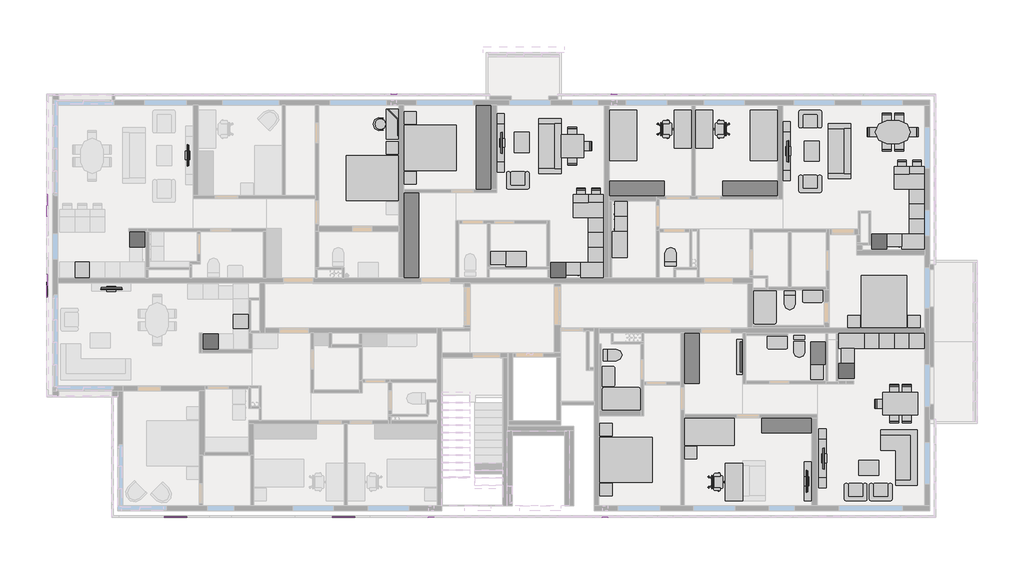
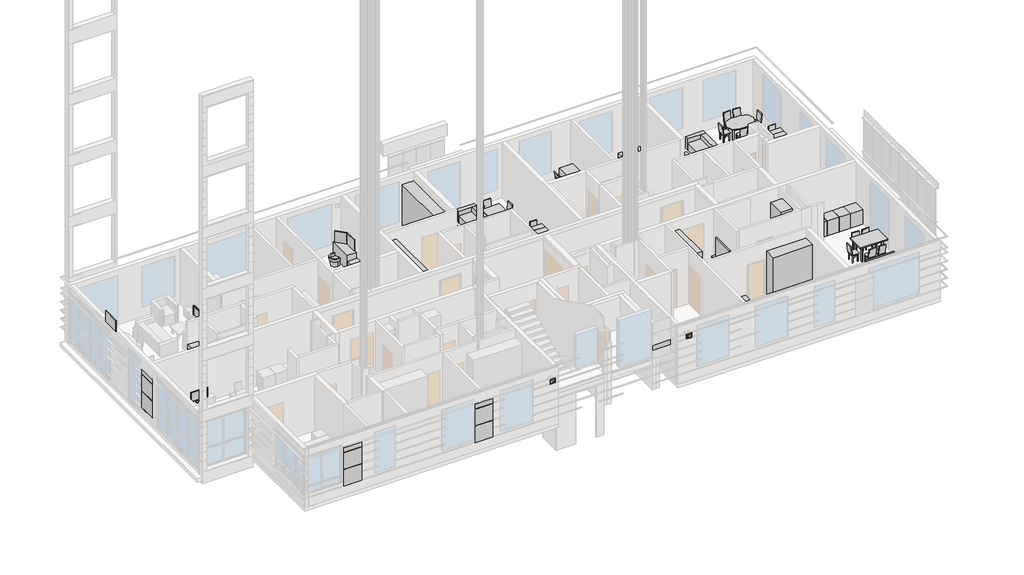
# One storey, part 13 of 14: 80 furniture elements, 31 proxies, 21 flow terminals.
"""IFC4 building model written with IfcOpenShell, lengths in millimetres."""

from ifc_helpers import new_model, si_unit, origin, place, context, project, spatial, transform, mapped, element, save
from components import generic_models_2374763e, generic_models_25d82840, generic_models_359d7c4d, proxy_200x200_7656bd7d, proxy_600x600_81ef8736, proxy_600x600_5c3b2bdc, proxy_600x600_402ae289, diagonal_810_88a9d531, diagonal_810_7ba350c9, flow_terminal_9331744f, flow_terminal_600x500_0679050d, flow_terminal_600x500_bbc3c571, flow_terminal_600x600_aff60e7d, flow_terminal_600x600_852fcc23, flow_terminal_600x600_098c5d3b, flow_terminal_800x500_2e84b328, default_ee5b1c30, default_5434b9c1, default_cdd5ccfe, furniture_04e13bb0, furniture_0a480fd8, furniture_ec166d57, furniture_af5cb44b, furniture_a4c6fd55, furniture_1200x500_daaa9677, furniture_1500x700_7e20c9bf, furniture_1500x700_44764a8b, furniture_2000x900_8549b6ce, furniture_2000x900_58b30379, furniture_2100x1800_e54d67c0, furniture_2100x1800_bd9d3ce1, furniture_2200_2217fce5, furniture_2200_8f109862, furniture_500x2350_ecc61c4f, furniture_500x2350_c66ae9e6, furniture_500x2350_ca4e032f, furniture_700x700_51dbe41f, furniture_900x1400_8099c148, furniture_900x600_407b2405, furniture_900x_6df32213, r225_6250b2e2, chair_43e23103, chair_320c8197, default_8bd5e8aa, default_8e6d88ca, default_1c22f4a7, default_57711184, default_7369cba9, default_9e8bff27, default_f7649dbb, default_14032b75, default_8cef931d, default_b709d490, default_350fb545, default_5d1f57f7, default_d962509c

model = new_model("IFC4")

# Units and contexts
model_context = context("Model", 3, world=origin())
ifc_project = project(units=[si_unit("LENGTHUNIT", "METRE", prefix="MILLI")], contexts=[model_context])

# Site, building, storey
site = spatial("IfcSite", under=ifc_project)
building = spatial("IfcBuilding", under=site)
storey = spatial("IfcBuildingStorey", under=building, Name="03_+7,700_Ж", Elevation=4500.0)

# Proxies
placement = place(None, origin())
generic_models_shape = generic_models_2374763e(model_context)
element("IfcBuildingElementProxy", 1, Name="GM_Панель фасадная : Тип 1", ObjectType="GM_Панель фасадная : Тип 1", at=placement, inside=storey, context=model_context, shape_type="MappedRepresentation", body=[
    mapped(generic_models_shape, transform((137655.0000001, 111274.9999987, 5065.0), x_axis=(-1.0, 0.0, 0.0), y_axis=(0.0, -1.0, 0.0), z_axis=(0.0, 0.0, 1.0))),
])
element("IfcBuildingElementProxy", 2, Name="GM_Панель фасадная : Тип 1", ObjectType="GM_Панель фасадная : Тип 1", at=placement, inside=storey, context=model_context, shape_type="MappedRepresentation", body=[
    mapped(generic_models_shape, transform((137655.0000001, 111274.9999987, 5975.0), x_axis=(-1.0, 0.0, 0.0), y_axis=(0.0, -1.0, 0.0), z_axis=(0.0, 0.0, 1.0))),
])
element("IfcBuildingElementProxy", 3, Name="GM_Панель фасадная : Тип 1", ObjectType="GM_Панель фасадная : Тип 1", at=placement, inside=storey, context=model_context, shape_type="MappedRepresentation", body=[
    mapped(generic_models_shape, transform((130955.0000001, 111274.9999987, 5065.0), x_axis=(-1.0, 0.0, 0.0), y_axis=(0.0, -1.0, 0.0), z_axis=(0.0, 0.0, 1.0))),
])
element("IfcBuildingElementProxy", 4, Name="GM_Панель фасадная : Тип 1", ObjectType="GM_Панель фасадная : Тип 1", at=placement, inside=storey, context=model_context, shape_type="MappedRepresentation", body=[
    mapped(generic_models_shape, transform((130955.0000001, 111274.9999987, 5975.0), x_axis=(-1.0, 0.0, 0.0), y_axis=(0.0, -1.0, 0.0), z_axis=(0.0, 0.0, 1.0))),
])
generic_models_2_shape = generic_models_25d82840(model_context)
element("IfcBuildingElementProxy", 5, Name="GM_Панель фасадная : Тип 1", ObjectType="GM_Панель фасадная : Тип 1", at=placement, inside=storey, context=model_context, shape_type="MappedRepresentation", body=[
    mapped(generic_models_2_shape, transform((137655.0000001, 111274.9999987, 6885.0), x_axis=(-1.0, 0.0, 0.0), y_axis=(0.0, -1.0, 0.0), z_axis=(0.0, 0.0, 1.0))),
])
element("IfcBuildingElementProxy", 6, Name="GM_Панель фасадная : Тип 1", ObjectType="GM_Панель фасадная : Тип 1", at=placement, inside=storey, context=model_context, shape_type="MappedRepresentation", body=[
    mapped(generic_models_2_shape, transform((130955.0000001, 111274.9999987, 6885.0), x_axis=(-1.0, 0.0, 0.0), y_axis=(0.0, -1.0, 0.0), z_axis=(0.0, 0.0, 1.0))),
])
element("IfcBuildingElementProxy", 7, Name="GM_Панель фасадная : Тип 1", ObjectType="GM_Панель фасадная : Тип 1", at=placement, inside=storey, context=model_context, shape_type="MappedRepresentation", body=[
    mapped(generic_models_2_shape, transform((126255.0000001, 120724.9999987, 6885.0), x_axis=(0.0, 1.0, 0.0), y_axis=(-1.0, 0.0, 0.0), z_axis=(0.0, 0.0, 1.0))),
])
element("IfcBuildingElementProxy", 8, Name="GM_Панель фасадная : Тип 1", ObjectType="GM_Панель фасадная : Тип 1", at=placement, inside=storey, context=model_context, shape_type="MappedRepresentation", body=[
    mapped(generic_models_shape, transform((126255.0000001, 120724.9999987, 5065.0), x_axis=(0.0, 1.0, 0.0), y_axis=(-1.0, 0.0, 0.0), z_axis=(0.0, 0.0, 1.0))),
])
element("IfcBuildingElementProxy", 9, Name="GM_Панель фасадная : Тип 1", ObjectType="GM_Панель фасадная : Тип 1", at=placement, inside=storey, context=model_context, shape_type="MappedRepresentation", body=[
    mapped(generic_models_shape, transform((126255.0000001, 120724.9999987, 5975.0), x_axis=(0.0, 1.0, 0.0), y_axis=(-1.0, 0.0, 0.0), z_axis=(0.0, 0.0, 1.0))),
])
generic_models_3_shape = generic_models_359d7c4d(model_context)
element("IfcBuildingElementProxy", 10, Name="GM_Панель фасадная : Тип 1", ObjectType="GM_Панель фасадная : Тип 1", at=placement, inside=storey, context=model_context, shape_type="MappedRepresentation", body=[
    mapped(generic_models_3_shape, transform((126255.0000001, 123924.9999987, 7760.0), x_axis=(0.0, 1.0, 0.0), y_axis=(-1.0, 0.0, 0.0), z_axis=(0.0, 0.0, 1.0))),
])
element("IfcBuildingElementProxy", 11, Name="GM_Панель фасадная : Тип 1", ObjectType="GM_Панель фасадная : Тип 1", at=placement, inside=storey, context=model_context, shape_type="MappedRepresentation", body=[
    mapped(generic_models_2_shape, transform((146705.0000002, 111274.9999987, 6885.0), x_axis=(-1.0, 0.0, 0.0), y_axis=(0.0, -1.0, 0.0), z_axis=(0.0, 0.0, 1.0))),
])
proxy_200x200_shape = proxy_200x200_7656bd7d(model_context)
element("IfcBuildingElementProxy", 12, Name="Eq_Отв- заполнение_решетка П : 200x200", ObjectType="Eq_Отв- заполнение_решетка П : 200x200", at=placement, inside=storey, context=model_context, shape_type="MappedRepresentation", body=[
    mapped(proxy_200x200_shape, transform((139990.0000001, 128049.9999987, 7020.0), x_axis=(-1.0, 0.0, 0.0), y_axis=(0.0, 0.0, 1.0), z_axis=(0.0, 1.0, 0.0))),
])
element("IfcBuildingElementProxy", 13, Name="Eq_Отв- заполнение_решетка П : 200x200", ObjectType="Eq_Отв- заполнение_решетка П : 200x200", at=placement, inside=storey, context=model_context, shape_type="MappedRepresentation", body=[
    mapped(proxy_200x200_shape, transform((148790.0000001, 128049.9999987, 7020.0), x_axis=(-1.0, 0.0, 0.0), y_axis=(0.0, 0.0, 1.0), z_axis=(0.0, 1.0, 0.0))),
])
element("IfcBuildingElementProxy", 14, Name="Eq_Отв- заполнение_решетка П : 200x200", ObjectType="Eq_Отв- заполнение_решетка П : 200x200", at=placement, inside=storey, context=model_context, shape_type="MappedRepresentation", body=[
    mapped(proxy_200x200_shape, transform((148430.0000001, 111149.9999987, 7020.0), x_axis=(1.0, 0.0, 0.0), y_axis=(0.0, 0.0, 1.0), z_axis=(0.0, -1.0, 0.0))),
])
element("IfcBuildingElementProxy", 15, Name="Eq_Отв- заполнение_решетка П : 200x200", ObjectType="Eq_Отв- заполнение_решетка П : 200x200", at=placement, inside=storey, context=model_context, shape_type="MappedRepresentation", body=[
    mapped(proxy_200x200_shape, transform((141480.0000001, 111149.9999987, 7020.0), x_axis=(1.0, 0.0, 0.0), y_axis=(0.0, 0.0, 1.0), z_axis=(0.0, -1.0, 0.0))),
])
proxy_600x600_shape = proxy_600x600_81ef8736(model_context)
element("IfcBuildingElementProxy", 16, Name="Eq_холодильник_LEG : 600x600", ObjectType="Eq_холодильник_LEG : 600x600", at=placement, inside=storey, context=model_context, shape_type="MappedRepresentation", body=[
    mapped(proxy_600x600_shape, transform((130050.0000001, 122529.9999987, 4500.0), x_axis=(0.0, 1.0, 0.0), y_axis=(-1.0, 0.0, 0.0), z_axis=(0.0, 0.0, 1.0))),
])
proxy_600x600_2_shape = proxy_600x600_5c3b2bdc(model_context)
element("IfcBuildingElementProxy", 17, Name="Eq_плита_LEG_v2 : 600x600", ObjectType="Eq_плита_LEG_v2 : 600x600", at=placement, inside=storey, context=model_context, shape_type="MappedRepresentation", body=[
    mapped(proxy_600x600_2_shape, transform((133580.0000001, 119269.9999987, 4500.0), x_axis=(0.0, -1.0, 0.0), y_axis=(1.0, 0.0, 0.0), z_axis=(0.0, 0.0, 1.0))),
])
element("IfcBuildingElementProxy", 18, Name="Eq_плита_LEG_v2 : 600x600", ObjectType="Eq_плита_LEG_v2 : 600x600", at=placement, inside=storey, context=model_context, shape_type="MappedRepresentation", body=[
    mapped(proxy_600x600_2_shape, transform((159962.0000001, 117879.9999987, 4500.0), x_axis=(1.0, 0.0, 0.0), y_axis=(0.0, 1.0, 0.0), z_axis=(0.0, 0.0, 1.0))),
])
element("IfcBuildingElementProxy", 19, Name="Eq_плита_LEG_v2 : 600x600", ObjectType="Eq_плита_LEG_v2 : 600x600", at=placement, inside=storey, context=model_context, shape_type="MappedRepresentation", body=[
    mapped(proxy_600x600_2_shape, transform((160565.0000001, 124254.9999987, 4500.0), x_axis=(0.0, -1.0, 0.0), y_axis=(1.0, 0.0, 0.0), z_axis=(0.0, 0.0, 1.0))),
])
element("IfcBuildingElementProxy", 20, Name="Eq_плита_LEG_v2 : 600x600", ObjectType="Eq_плита_LEG_v2 : 600x600", at=placement, inside=storey, context=model_context, shape_type="MappedRepresentation", body=[
    mapped(proxy_600x600_2_shape, transform((127850.3405906, 121329.9999987, 4500.0), x_axis=(-1.0, 0.0, 0.0), y_axis=(0.0, -1.0, 0.0), z_axis=(0.0, 0.0, 1.0))),
])
element("IfcBuildingElementProxy", 21, Name="Eq_плита_LEG_v2 : 600x600", ObjectType="Eq_плита_LEG_v2 : 600x600", at=placement, inside=storey, context=model_context, shape_type="MappedRepresentation", body=[
    mapped(proxy_600x600_2_shape, transform((147750.0000001, 123124.9999987, 4500.0), x_axis=(0.0, -1.0, 0.0), y_axis=(1.0, 0.0, 0.0), z_axis=(0.0, 0.0, 1.0))),
])
proxy_600x600_3_shape = proxy_600x600_402ae289(model_context)
element("IfcBuildingElementProxy", 22, Name="Eq_холодильник_LEG : 600x600", ObjectType="Eq_холодильник_LEG : 600x600", at=placement, inside=storey, context=model_context, shape_type="MappedRepresentation", body=[
    mapped(proxy_600x600_3_shape, transform((132380.0000001, 117869.9999987, 4500.0), x_axis=(-1.0, 0.0, 0.0), y_axis=(0.0, -1.0, 0.0), z_axis=(0.0, 0.0, 1.0))),
])
element("IfcBuildingElementProxy", 23, Name="Eq_холодильник_LEG : 600x600", ObjectType="Eq_холодильник_LEG : 600x600", at=placement, inside=storey, context=model_context, shape_type="MappedRepresentation", body=[
    mapped(proxy_600x600_3_shape, transform((157762.0000001, 117279.9999987, 4500.0), x_axis=(0.0, 1.0, 0.0), y_axis=(-1.0, 0.0, 0.0), z_axis=(0.0, 0.0, 1.0))),
])
element("IfcBuildingElementProxy", 24, Name="Eq_холодильник_LEG : 600x600", ObjectType="Eq_холодильник_LEG : 600x600", at=placement, inside=storey, context=model_context, shape_type="MappedRepresentation", body=[
    mapped(proxy_600x600_3_shape, transform((159065.0000001, 121854.9999987, 4500.0), x_axis=(-1.0, 0.0, 0.0), y_axis=(0.0, -1.0, 0.0), z_axis=(0.0, 0.0, 1.0))),
])
element("IfcBuildingElementProxy", 25, Name="Eq_холодильник_LEG : 600x600", ObjectType="Eq_холодильник_LEG : 600x600", at=placement, inside=storey, context=model_context, shape_type="MappedRepresentation", body=[
    mapped(proxy_600x600_3_shape, transform((146250.0000001, 120724.9999987, 4500.0), x_axis=(-1.0, 0.0, 0.0), y_axis=(0.0, -1.0, 0.0), z_axis=(0.0, 0.0, 1.0))),
])
diagonal_810_shape = diagonal_810_88a9d531(model_context)
element("IfcBuildingElementProxy", 26, Name="Eq_TV : diagonal_810", ObjectType="Eq_TV : diagonal_810", at=placement, inside=storey, context=model_context, shape_type="MappedRepresentation", body=[
    mapped(diagonal_810_shape, transform((157117.5755232, 113486.0554846, 4900.0), x_axis=(0.0, -1.0, 0.0), y_axis=(1.0, 0.0, 0.0), z_axis=(0.0, 0.0, 1.0))),
])
diagonal_810_2_shape = diagonal_810_7ba350c9(model_context)
element("IfcBuildingElementProxy", 27, Name="Eq_TV : diagonal_810", ObjectType="Eq_TV : diagonal_810", at=placement, inside=storey, context=model_context, shape_type="MappedRepresentation", body=[
    mapped(diagonal_810_2_shape, transform((128721.4445143, 120317.4244756, 4900.0), x_axis=(1.0, 0.0, 0.0), y_axis=(0.0, 1.0, 0.0), z_axis=(0.0, 0.0, 1.0))),
])
element("IfcBuildingElementProxy", 28, Name="Eq_TV : diagonal_810", ObjectType="Eq_TV : diagonal_810", at=placement, inside=storey, context=model_context, shape_type="MappedRepresentation", body=[
    mapped(diagonal_810_2_shape, transform((156519.4244771, 112571.0554846, 4900.0), x_axis=(0.0, -1.0, 0.0), y_axis=(1.0, 0.0, 0.0), z_axis=(0.0, 0.0, 1.0))),
])
element("IfcBuildingElementProxy", 29, Name="Eq_TV : diagonal_810", ObjectType="Eq_TV : diagonal_810", at=placement, inside=storey, context=model_context, shape_type="MappedRepresentation", body=[
    mapped(diagonal_810_2_shape, transform((155685.6400195, 125768.9445128, 4900.0), x_axis=(0.0, 1.0, 0.0), y_axis=(-1.0, 0.0, 0.0), z_axis=(0.0, 0.0, 1.0))),
])
element("IfcBuildingElementProxy", 30, Name="Eq_TV : diagonal_810", ObjectType="Eq_TV : diagonal_810", at=placement, inside=storey, context=model_context, shape_type="MappedRepresentation", body=[
    mapped(diagonal_810_2_shape, transform((131817.4244771, 125596.0554846, 4900.0), x_axis=(0.0, -1.0, 0.0), y_axis=(1.0, 0.0, 0.0), z_axis=(0.0, 0.0, 1.0))),
])
element("IfcBuildingElementProxy", 31, Name="Eq_TV : diagonal_810", ObjectType="Eq_TV : diagonal_810", at=placement, inside=storey, context=model_context, shape_type="MappedRepresentation", body=[
    mapped(diagonal_810_2_shape, transform((144262.5755232, 126103.9445128, 4900.0), x_axis=(0.0, 1.0, 0.0), y_axis=(-1.0, 0.0, 0.0), z_axis=(0.0, 0.0, 1.0))),
])

# Flow terminals
flow_terminal_shape = flow_terminal_9331744f(model_context)
element("IfcFlowTerminal", 32, ObjectType="SP_унитаз подвесной : SP_унитаз подвесной", at=placement, inside=storey, context=model_context, shape_type="MappedRepresentation", body=[
    mapped(flow_terminal_shape, transform((156177.0000001, 118169.9999987, 4500.0), x_axis=(-1.0, 0.0, 0.0), y_axis=(0.0, -1.0, 0.0), z_axis=(0.0, 0.0, 1.0))),
])
flow_terminal_600x500_shape = flow_terminal_600x500_0679050d(model_context)
element("IfcFlowTerminal", 33, ObjectType="SP_раковина_LEG_настраиваемая : 600x500", at=placement, inside=storey, context=model_context, shape_type="MappedRepresentation", body=[
    mapped(flow_terminal_600x500_shape, transform((144870.0000001, 121149.9999987, 4500.0), x_axis=(-1.0, 0.0, 0.0), y_axis=(0.0, -1.0, 0.0), z_axis=(0.0, 0.0, 1.0))),
])
flow_terminal_600x500_2_shape = flow_terminal_600x500_bbc3c571(model_context)
element("IfcFlowTerminal", 34, ObjectType="SP_раковина_LEG_настраиваемая : 600x500", at=placement, inside=storey, context=model_context, shape_type="MappedRepresentation", body=[
    mapped(flow_terminal_600x500_2_shape, transform((148715.0000001, 122037.4999987, 4588.0), x_axis=(0.0, 1.0, 0.0), y_axis=(-1.0, 0.0, 0.0), z_axis=(0.0, 0.0, 1.0))),
])
flow_terminal_600x600_shape = flow_terminal_600x600_aff60e7d(model_context)
element("IfcFlowTerminal", 35, ObjectType="SP_раковина кухонная_LEG : 600x600", at=placement, inside=storey, context=model_context, shape_type="MappedRepresentation", body=[
    mapped(flow_terminal_600x600_shape, transform((159362.0000001, 118479.9999987, 4500.0), x_axis=(1.0, 0.0, 0.0), y_axis=(0.0, 1.0, 0.0), z_axis=(0.0, 0.0, 1.0))),
])
element("IfcFlowTerminal", 36, ObjectType="SP_раковина кухонная_LEG : 600x600", at=placement, inside=storey, context=model_context, shape_type="MappedRepresentation", body=[
    mapped(flow_terminal_600x600_shape, transform((148350.0000001, 121324.9999987, 4500.0), x_axis=(0.0, -1.0, 0.0), y_axis=(1.0, 0.0, 0.0), z_axis=(0.0, 0.0, 1.0))),
])
element("IfcFlowTerminal", 37, ObjectType="SP_раковина кухонная_LEG : 600x600", at=placement, inside=storey, context=model_context, shape_type="MappedRepresentation", body=[
    mapped(flow_terminal_600x600_shape, transform((161165.0000001, 122454.9999987, 4500.0), x_axis=(0.0, -1.0, 0.0), y_axis=(1.0, 0.0, 0.0), z_axis=(0.0, 0.0, 1.0))),
])
flow_terminal_600x600_2_shape = flow_terminal_600x600_852fcc23(model_context)
element("IfcFlowTerminal", 38, ObjectType="SP_стиральная машина_LEG : 600x600", at=placement, inside=storey, context=model_context, shape_type="MappedRepresentation", body=[
    mapped(flow_terminal_600x600_2_shape, transform((157227.0000001, 116949.9999987, 4500.0), x_axis=(0.0, 1.0, 0.0), y_axis=(-1.0, 0.0, 0.0), z_axis=(0.0, 0.0, 1.0))),
])
element("IfcFlowTerminal", 39, ObjectType="SP_стиральная машина_LEG : 600x600", at=placement, inside=storey, context=model_context, shape_type="MappedRepresentation", body=[
    mapped(flow_terminal_600x600_2_shape, transform((148715.0000001, 123449.9999987, 4500.0), x_axis=(0.0, -1.0, 0.0), y_axis=(1.0, 0.0, 0.0), z_axis=(0.0, 0.0, 1.0))),
])
element("IfcFlowTerminal", 40, ObjectType="SP_стиральная машина_LEG : 600x600", at=placement, inside=storey, context=model_context, shape_type="MappedRepresentation", body=[
    mapped(flow_terminal_600x600_2_shape, transform((144170.0000001, 121149.9999987, 4500.0), x_axis=(1.0, 0.0, 0.0), y_axis=(0.0, 1.0, 0.0), z_axis=(0.0, 0.0, 1.0))),
])
element("IfcFlowTerminal", 41, ObjectType="SP_стиральная машина_LEG : 600x600", at=placement, inside=storey, context=model_context, shape_type="MappedRepresentation", body=[
    mapped(flow_terminal_600x600_2_shape, transform((148715.0000001, 122849.9999987, 4500.0), x_axis=(0.0, -1.0, 0.0), y_axis=(1.0, 0.0, 0.0), z_axis=(0.0, 0.0, 1.0))),
])
flow_terminal_600x600_3_shape = flow_terminal_600x600_098c5d3b(model_context)
element("IfcFlowTerminal", 42, ObjectType="SP_посудомоечная машина_LEG : 600x600", at=placement, inside=storey, context=model_context, shape_type="MappedRepresentation", body=[
    mapped(flow_terminal_600x600_3_shape, transform((157762.0000001, 117579.9999987, 4500.0), x_axis=(0.0, -1.0, 0.0), y_axis=(1.0, 0.0, 0.0), z_axis=(0.0, 0.0, 1.0))),
])
element("IfcFlowTerminal", 43, ObjectType="SP_посудомоечная машина_LEG : 600x600", at=placement, inside=storey, context=model_context, shape_type="MappedRepresentation", body=[
    mapped(flow_terminal_600x600_3_shape, transform((159965.0000001, 121854.9999987, 4500.0), x_axis=(1.0, 0.0, 0.0), y_axis=(0.0, 1.0, 0.0), z_axis=(0.0, 0.0, 1.0))),
])
element("IfcFlowTerminal", 44, ObjectType="SP_посудомоечная машина_LEG : 600x600", at=placement, inside=storey, context=model_context, shape_type="MappedRepresentation", body=[
    mapped(flow_terminal_600x600_3_shape, transform((147150.0000001, 120724.9999987, 4500.0), x_axis=(1.0, 0.0, 0.0), y_axis=(0.0, 1.0, 0.0), z_axis=(0.0, 0.0, 1.0))),
])
flow_terminal_800x500_shape = flow_terminal_800x500_2e84b328(model_context)
element("IfcFlowTerminal", 45, ObjectType="SP_раковина_LEG : 800x500", at=placement, inside=storey, context=model_context, shape_type="MappedRepresentation", body=[
    mapped(flow_terminal_800x500_shape, transform((148305.0000001, 116769.9999987, 4500.0), x_axis=(0.0, 1.0, 0.0), y_axis=(-1.0, 0.0, 0.0), z_axis=(0.0, 0.0, 1.0))),
])
element("IfcFlowTerminal", 46, ObjectType="SP_раковина_LEG : 800x500", at=placement, inside=storey, context=model_context, shape_type="MappedRepresentation", body=[
    mapped(flow_terminal_800x500_shape, transform((155302.0000001, 118374.9999987, 4500.0), x_axis=(1.0, 0.0, 0.0), y_axis=(0.0, 1.0, 0.0), z_axis=(0.0, 0.0, 1.0))),
])
element("IfcFlowTerminal", 47, ObjectType="SP_раковина_LEG : 800x500", at=placement, inside=storey, context=model_context, shape_type="MappedRepresentation", body=[
    mapped(flow_terminal_800x500_shape, transform((156707.4250255, 120224.9999987, 4500.0), x_axis=(1.0, 0.0, 0.0), y_axis=(0.0, 1.0, 0.0), z_axis=(0.0, 0.0, 1.0))),
])
default_shape = default_ee5b1c30(model_context)
element("IfcFlowTerminal", 48, ObjectType="SP_душевой поддон_LEG : default", at=placement, inside=storey, context=model_context, shape_type="MappedRepresentation", body=[
    mapped(default_shape, transform((154355.0000001, 120174.9999987, 4500.0), x_axis=(0.0, -1.0, 0.0), y_axis=(1.0, 0.0, 0.0), z_axis=(0.0, 0.0, 1.0))),
])
default_2_shape = default_5434b9c1(model_context)
element("IfcFlowTerminal", 49, ObjectType="SP_душевой поддон_LEG : default", at=placement, inside=storey, context=model_context, shape_type="MappedRepresentation", body=[
    mapped(default_2_shape, transform((149820.0000001, 115429.9999987, 4500.0), x_axis=(0.0, 1.0, 0.0), y_axis=(-1.0, 0.0, 0.0), z_axis=(0.0, 0.0, 1.0))),
])
default_3_shape = default_cdd5ccfe(model_context)
element("IfcFlowTerminal", 50, ObjectType="SP_унитаз : default", at=placement, inside=storey, context=model_context, shape_type="MappedRepresentation", body=[
    mapped(default_3_shape, transform((148355.0000001, 117619.9999987, 4500.0), x_axis=(1.0, 0.0, 0.0), y_axis=(0.0, 1.0, 0.0), z_axis=(0.0, 0.0, 1.0))),
])
element("IfcFlowTerminal", 51, ObjectType="SP_унитаз : default", at=placement, inside=storey, context=model_context, shape_type="MappedRepresentation", body=[
    mapped(default_3_shape, transform((151040.0000001, 121179.9999987, 4500.0), x_axis=(0.0, 1.0, 0.0), y_axis=(-1.0, 0.0, 0.0), z_axis=(0.0, 0.0, 1.0))),
])
element("IfcFlowTerminal", 52, ObjectType="SP_унитаз : default", at=placement, inside=storey, context=model_context, shape_type="MappedRepresentation", body=[
    mapped(default_3_shape, transform((155797.4250255, 120174.9999987, 4500.0), x_axis=(0.0, -1.0, 0.0), y_axis=(1.0, 0.0, 0.0), z_axis=(0.0, 0.0, 1.0))),
])

# Furniture
furniture_shape = furniture_04e13bb0(model_context)
element("IfcFurniture", 53, ObjectType="Fu_журнальный_столик_прямоугольный_LEG : 600Х800", at=placement, inside=storey, context=model_context, shape_type="MappedRepresentation", body=[
    mapped(furniture_shape, transform((145645.0000001, 126119.9999987, 4500.0), x_axis=(1.0, 0.0, 0.0), y_axis=(0.0, 1.0, 0.0), z_axis=(0.0, 0.0, 1.0))),
])
element("IfcFurniture", 54, ObjectType="Fu_журнальный_столик_прямоугольный_LEG : 600Х800", at=placement, inside=storey, context=model_context, shape_type="MappedRepresentation", body=[
    mapped(furniture_shape, transform((158955.0000001, 113659.9999987, 4500.0), x_axis=(0.0, 1.0, 0.0), y_axis=(-1.0, 0.0, 0.0), z_axis=(0.0, 0.0, 1.0))),
])
element("IfcFurniture", 55, ObjectType="Fu_журнальный_столик_прямоугольный_LEG : 600Х800", at=placement, inside=storey, context=model_context, shape_type="MappedRepresentation", body=[
    mapped(furniture_shape, transform((157232.0000001, 125764.9999987, 4500.0), x_axis=(1.0, 0.0, 0.0), y_axis=(0.0, 1.0, 0.0), z_axis=(0.0, 0.0, 1.0))),
])
furniture_2_shape = furniture_0a480fd8(model_context)
element("IfcFurniture", 56, ObjectType="Fu_трюмо_LEG : 1400Х250", at=placement, inside=storey, context=model_context, shape_type="MappedRepresentation", body=[
    mapped(furniture_2_shape, transform((153927.0000001, 116839.9999987, 4500.0), x_axis=(0.0, 1.0, 0.0), y_axis=(-1.0, 0.0, 0.0), z_axis=(0.0, 0.0, 1.0))),
])
furniture_3_shape = furniture_ec166d57(model_context)
element("IfcFurniture", 57, ObjectType="Fu_шкаф 1-с : Шкаф 1-створчатый", at=placement, inside=storey, context=model_context, shape_type="MappedRepresentation", body=[
    mapped(furniture_3_shape, transform((156627.0000001, 117249.9999987, 4500.0), x_axis=(1.0, 0.0, 0.0), y_axis=(0.0, 1.0, 0.0), z_axis=(0.0, 0.0, 1.0))),
])
furniture_4_shape = furniture_af5cb44b(model_context)
element("IfcFurniture", 58, ObjectType="Fu_тумба прикроватная_LEG : 500х500", at=placement, inside=storey, context=model_context, shape_type="MappedRepresentation", body=[
    mapped(furniture_4_shape, transform((148460.0000001, 114639.9999987, 4500.0), x_axis=(0.0, 1.0, 0.0), y_axis=(-1.0, 0.0, 0.0), z_axis=(0.0, 0.0, 1.0))),
])
element("IfcFurniture", 59, ObjectType="Fu_тумба прикроватная_LEG : 500х500", at=placement, inside=storey, context=model_context, shape_type="MappedRepresentation", body=[
    mapped(furniture_4_shape, transform((158360.0000001, 118949.9999987, 4500.0), x_axis=(-1.0, 0.0, 0.0), y_axis=(0.0, -1.0, 0.0), z_axis=(0.0, 0.0, 1.0))),
])
element("IfcFurniture", 60, ObjectType="Fu_тумба прикроватная_LEG : 500х500", at=placement, inside=storey, context=model_context, shape_type="MappedRepresentation", body=[
    mapped(furniture_4_shape, transform((140640.0000001, 127099.9999987, 4500.0), x_axis=(0.0, 1.0, 0.0), y_axis=(-1.0, 0.0, 0.0), z_axis=(0.0, 0.0, 1.0))),
])
furniture_5_shape = furniture_a4c6fd55(model_context)
element("IfcFurniture", 61, ObjectType="Fu_тумба прикроватная_LEG : 500х500", at=placement, inside=storey, context=model_context, shape_type="MappedRepresentation", body=[
    mapped(furniture_5_shape, transform((148460.0000001, 112239.9999987, 4500.0), x_axis=(0.0, -1.0, 0.0), y_axis=(1.0, 0.0, 0.0), z_axis=(0.0, 0.0, 1.0))),
])
element("IfcFurniture", 62, ObjectType="Fu_тумба прикроватная_LEG : 500х500", at=placement, inside=storey, context=model_context, shape_type="MappedRepresentation", body=[
    mapped(furniture_5_shape, transform((151832.0000001, 113719.9999987, 4500.0), x_axis=(0.0, -1.0, 0.0), y_axis=(1.0, 0.0, 0.0), z_axis=(0.0, 0.0, 1.0))),
])
element("IfcFurniture", 63, ObjectType="Fu_тумба прикроватная_LEG : 500х500", at=placement, inside=storey, context=model_context, shape_type="MappedRepresentation", body=[
    mapped(furniture_5_shape, transform((160760.0000001, 118949.9999987, 4500.0), x_axis=(1.0, 0.0, 0.0), y_axis=(0.0, 1.0, 0.0), z_axis=(0.0, 0.0, 1.0))),
])
element("IfcFurniture", 64, ObjectType="Fu_тумба прикроватная_LEG : 500х500", at=placement, inside=storey, context=model_context, shape_type="MappedRepresentation", body=[
    mapped(furniture_5_shape, transform((139940.0000001, 125894.9999987, 4500.0), x_axis=(0.0, 1.0, 0.0), y_axis=(-1.0, 0.0, 0.0), z_axis=(0.0, 0.0, 1.0))),
])
element("IfcFurniture", 65, ObjectType="Fu_тумба прикроватная_LEG : 500х500", at=placement, inside=storey, context=model_context, shape_type="MappedRepresentation", body=[
    mapped(furniture_5_shape, transform((140640.0000001, 124699.9999987, 4500.0), x_axis=(0.0, -1.0, 0.0), y_axis=(1.0, 0.0, 0.0), z_axis=(0.0, 0.0, 1.0))),
])
furniture_1200x500_shape = furniture_1200x500_daaa9677(model_context)
element("IfcFurniture", 66, ObjectType="Fu_будуар : 1200x500", at=placement, inside=storey, context=model_context, shape_type="MappedRepresentation", body=[
    mapped(furniture_1200x500_shape, transform((138573.2060378, 126623.4018907, 4500.0), x_axis=(0.0, -1.0, 0.0), y_axis=(1.0, 0.0, 0.0), z_axis=(0.0, 0.0, 1.0))),
])
furniture_1500x700_shape = furniture_1500x700_7e20c9bf(model_context)
element("IfcFurniture", 67, ObjectType="Fu_стол рабочий : 1500x700", at=placement, inside=storey, context=model_context, shape_type="MappedRepresentation", body=[
    mapped(furniture_1500x700_shape, transform((153631.7939625, 126423.4018907, 4500.0), x_axis=(0.0, -1.0, 0.0), y_axis=(1.0, 0.0, 0.0), z_axis=(0.0, 0.0, 1.0))),
])
furniture_1500x700_2_shape = furniture_1500x700_44764a8b(model_context)
element("IfcFurniture", 68, ObjectType="Fu_стол рабочий : 1500x700", at=placement, inside=storey, context=model_context, shape_type="MappedRepresentation", body=[
    mapped(furniture_1500x700_2_shape, transform((152310.2060378, 112323.4018907, 4500.0), x_axis=(0.0, -1.0, 0.0), y_axis=(1.0, 0.0, 0.0), z_axis=(0.0, 0.0, 1.0))),
])
element("IfcFurniture", 69, ObjectType="Fu_стол рабочий : 1500x700", at=placement, inside=storey, context=model_context, shape_type="MappedRepresentation", body=[
    mapped(furniture_1500x700_2_shape, transform((150273.2060378, 126423.4018907, 4500.0), x_axis=(0.0, -1.0, 0.0), y_axis=(1.0, 0.0, 0.0), z_axis=(0.0, 0.0, 1.0))),
])
furniture_2000x900_shape = furniture_2000x900_8549b6ce(model_context)
element("IfcFurniture", 70, ObjectType="Fu_кровать x1_LEG : 2000x900", at=placement, inside=storey, context=model_context, shape_type="MappedRepresentation", body=[
    mapped(furniture_2000x900_shape, transform((148691.9355038, 126634.4295069, 4500.0), x_axis=(-1.0, 0.0, 0.0), y_axis=(0.0, -1.0, 0.0), z_axis=(0.0, 0.0, 1.0))),
])
furniture_2000x900_2_shape = furniture_2000x900_58b30379(model_context)
element("IfcFurniture", 71, ObjectType="Fu_кровать x1_LEG : 2000x900", at=placement, inside=storey, context=model_context, shape_type="MappedRepresentation", body=[
    mapped(furniture_2000x900_2_shape, transform((152347.570492, 115019.9999987, 4500.0), x_axis=(0.0, 1.0, 0.0), y_axis=(-1.0, 0.0, 0.0), z_axis=(0.0, 0.0, 1.0))),
])
element("IfcFurniture", 72, ObjectType="Fu_кровать x1_LEG : 2000x900", at=placement, inside=storey, context=model_context, shape_type="MappedRepresentation", body=[
    mapped(furniture_2000x900_2_shape, transform((155213.0644964, 126634.4295069, 4500.0), x_axis=(1.0, 0.0, 0.0), y_axis=(0.0, 1.0, 0.0), z_axis=(0.0, 0.0, 1.0))),
])
furniture_2100x1800_shape = furniture_2100x1800_e54d67c0(model_context)
element("IfcFurniture", 73, ObjectType="Fu_кровать x2_LEG : 2100x1800", at=placement, inside=storey, context=model_context, shape_type="MappedRepresentation", body=[
    mapped(furniture_2100x1800_shape, transform((149025.570492, 113439.9999987, 4500.0), x_axis=(0.0, 1.0, 0.0), y_axis=(-1.0, 0.0, 0.0), z_axis=(0.0, 0.0, 1.0))),
])
element("IfcFurniture", 74, ObjectType="Fu_кровать x2_LEG : 2100x1800", at=placement, inside=storey, context=model_context, shape_type="MappedRepresentation", body=[
    mapped(furniture_2100x1800_shape, transform((141205.5704919, 125899.9999987, 4500.0), x_axis=(0.0, 1.0, 0.0), y_axis=(-1.0, 0.0, 0.0), z_axis=(0.0, 0.0, 1.0))),
])
furniture_2100x1800_2_shape = furniture_2100x1800_bd9d3ce1(model_context)
element("IfcFurniture", 75, ObjectType="Fu_кровать x2_LEG : 2100x1800", at=placement, inside=storey, context=model_context, shape_type="MappedRepresentation", body=[
    mapped(furniture_2100x1800_2_shape, transform((159560.0000001, 119515.5704905, 4500.0), x_axis=(1.0, 0.0, 0.0), y_axis=(0.0, 1.0, 0.0), z_axis=(0.0, 0.0, 1.0))),
])
element("IfcFurniture", 76, ObjectType="Fu_кровать x2_LEG : 2100x1800", at=placement, inside=storey, context=model_context, shape_type="MappedRepresentation", body=[
    mapped(furniture_2100x1800_2_shape, transform((139374.4295083, 124694.9999987, 4500.0), x_axis=(0.0, 1.0, 0.0), y_axis=(-1.0, 0.0, 0.0), z_axis=(0.0, 0.0, 1.0))),
])
furniture_2200_shape = furniture_2200_2217fce5(model_context)
element("IfcFurniture", 77, ObjectType="Fu_диван_LEG : 2200", at=placement, inside=storey, context=model_context, shape_type="MappedRepresentation", body=[
    mapped(furniture_2200_shape, transform((157313.222951, 126638.3737692, 4500.0), x_axis=(0.0, -1.0, 0.0), y_axis=(1.0, 0.0, 0.0), z_axis=(0.0, 0.0, 1.0))),
])
element("IfcFurniture", 78, ObjectType="Fu_диван_LEG : 2200", at=placement, inside=storey, context=model_context, shape_type="MappedRepresentation", body=[
    mapped(furniture_2200_shape, transform((145753.222951, 126843.3737692, 4500.0), x_axis=(0.0, -1.0, 0.0), y_axis=(1.0, 0.0, 0.0), z_axis=(0.0, 0.0, 1.0))),
])
furniture_2200_2_shape = furniture_2200_8f109862(model_context)
element("IfcFurniture", 79, ObjectType="Fu_диван угловой_LEG : 2200", at=placement, inside=storey, context=model_context, shape_type="MappedRepresentation", body=[
    mapped(furniture_2200_2_shape, transform((159988.222951, 114698.3737692, 4500.0), x_axis=(0.0, -1.0, 0.0), y_axis=(1.0, 0.0, 0.0), z_axis=(0.0, 0.0, 1.0))),
])
furniture_500x2350_shape = furniture_500x2350_ecc61c4f(model_context)
element("IfcFurniture", 80, ObjectType="Fu_TV+тумба_LEG : 500x2350", at=placement, inside=storey, context=model_context, shape_type="MappedRepresentation", body=[
    mapped(furniture_500x2350_shape, transform((157871.7770493, 113263.4018907, 4500.0), x_axis=(0.0, -1.0, 0.0), y_axis=(1.0, 0.0, 0.0), z_axis=(0.0, 0.0, 1.0))),
])
furniture_500x2350_2_shape = furniture_500x2350_c66ae9e6(model_context)
element("IfcFurniture", 81, ObjectType="Fu_TV+тумба_LEG : 500x2350", at=placement, inside=storey, context=model_context, shape_type="MappedRepresentation", body=[
    mapped(furniture_500x2350_2_shape, transform((155765.222951, 112348.4018907, 4500.0), x_axis=(0.0, -1.0, 0.0), y_axis=(1.0, 0.0, 0.0), z_axis=(0.0, 0.0, 1.0))),
])
furniture_500x2350_3_shape = furniture_500x2350_ca4e032f(model_context)
element("IfcFurniture", 82, ObjectType="Fu_TV+тумба_LEG : 500x2350", at=placement, inside=storey, context=model_context, shape_type="MappedRepresentation", body=[
    mapped(furniture_500x2350_3_shape, transform((145016.7770493, 126326.5981067, 4500.0), x_axis=(0.0, 1.0, 0.0), y_axis=(-1.0, 0.0, 0.0), z_axis=(0.0, 0.0, 1.0))),
])
element("IfcFurniture", 83, ObjectType="Fu_TV+тумба_LEG : 500x2350", at=placement, inside=storey, context=model_context, shape_type="MappedRepresentation", body=[
    mapped(furniture_500x2350_3_shape, transform((156439.8415456, 125991.5981067, 4500.0), x_axis=(0.0, 1.0, 0.0), y_axis=(-1.0, 0.0, 0.0), z_axis=(0.0, 0.0, 1.0))),
])
furniture_700x700_shape = furniture_700x700_51dbe41f(model_context)
element("IfcFurniture", 84, ObjectType="Fu_кухонный стол_LEG : 700x700", at=placement, inside=storey, context=model_context, shape_type="MappedRepresentation", body=[
    mapped(furniture_700x700_shape, transform((146570.0000001, 125969.9999987, 4500.0), x_axis=(-1.0, 0.0, 0.0), y_axis=(0.0, -1.0, 0.0), z_axis=(0.0, 0.0, 1.0))),
])
furniture_900x1400_shape = furniture_900x1400_8099c148(model_context)
element("IfcFurniture", 85, ObjectType="Fu_кухонный стол_LEG : 900x1400", at=placement, inside=storey, context=model_context, shape_type="MappedRepresentation", body=[
    mapped(furniture_900x1400_shape, transform((160513.5750403, 115674.9999987, 4500.0), x_axis=(1.0, 0.0, 0.0), y_axis=(0.0, 1.0, 0.0), z_axis=(0.0, 0.0, 1.0))),
])
furniture_900x600_shape = furniture_900x600_407b2405(model_context)
element("IfcFurniture", 86, ObjectType="Fu_кресло_большое_LEG : 900x600", at=placement, inside=storey, context=model_context, shape_type="MappedRepresentation", body=[
    mapped(furniture_900x600_shape, transform((159544.3000001, 112349.92636, 4500.0), x_axis=(-1.0, 0.0, 0.0), y_axis=(0.0, -1.0, 0.0), z_axis=(0.0, 0.0, 1.0))),
])
element("IfcFurniture", 87, ObjectType="Fu_кресло_большое_LEG : 900x600", at=placement, inside=storey, context=model_context, shape_type="MappedRepresentation", body=[
    mapped(furniture_900x600_shape, transform((158544.3000001, 112349.92636, 4500.0), x_axis=(-1.0, 0.0, 0.0), y_axis=(0.0, -1.0, 0.0), z_axis=(0.0, 0.0, 1.0))),
])
element("IfcFurniture", 88, ObjectType="Fu_кресло_большое_LEG : 900x600", at=placement, inside=storey, context=model_context, shape_type="MappedRepresentation", body=[
    mapped(furniture_900x600_shape, transform((156500.7000001, 126850.0736374, 4500.0), x_axis=(1.0, 0.0, 0.0), y_axis=(0.0, 1.0, 0.0), z_axis=(0.0, 0.0, 1.0))),
])
element("IfcFurniture", 89, ObjectType="Fu_кресло_большое_LEG : 900x600", at=placement, inside=storey, context=model_context, shape_type="MappedRepresentation", body=[
    mapped(furniture_900x600_shape, transform((156729.3000001, 124664.92636, 4500.0), x_axis=(-1.0, 0.0, 0.0), y_axis=(0.0, -1.0, 0.0), z_axis=(0.0, 0.0, 1.0))),
])
element("IfcFurniture", 90, ObjectType="Fu_кресло_большое_LEG : 900x600", at=placement, inside=storey, context=model_context, shape_type="MappedRepresentation", body=[
    mapped(furniture_900x600_shape, transform((145058.8000002, 124799.92636, 4500.0), x_axis=(-1.0, 0.0, 0.0), y_axis=(0.0, -1.0, 0.0), z_axis=(0.0, 0.0, 1.0))),
])
furniture_900x_shape = furniture_900x_6df32213(model_context)
element("IfcFurniture", 91, ObjectType="Fu_кухонный стол_овальный_LEG : 900x_", at=placement, inside=storey, context=model_context, shape_type="MappedRepresentation", body=[
    mapped(furniture_900x_shape, transform((160215.7634393, 126529.9837379, 4500.0), x_axis=(1.0, 0.0, 0.0), y_axis=(0.0, 1.0, 0.0), z_axis=(0.0, 0.0, 1.0))),
])
r225_shape = r225_6250b2e2(model_context)
element("IfcFurniture", 92, ObjectType="Fu_пуф_LEG : R225", at=placement, inside=storey, context=model_context, shape_type="MappedRepresentation", body=[
    mapped(r225_shape, transform((139649.9263614, 126735.6999987, 4500.0), x_axis=(0.0, 1.0, 0.0), y_axis=(-1.0, 0.0, 0.0), z_axis=(0.0, 0.0, 1.0))),
])
chair_shape = chair_43e23103(model_context)
element("IfcFurniture", 93, ObjectType="Fu_стул_LEG : chair", at=placement, inside=storey, context=model_context, shape_type="MappedRepresentation", body=[
    mapped(chair_shape, transform((159991.7750403, 116261.5185128, 4500.0), x_axis=(1.0, 0.0, 0.0), y_axis=(0.0, 1.0, 0.0), z_axis=(0.0, 0.0, 1.0))),
])
element("IfcFurniture", 94, ObjectType="Fu_стул_LEG : chair", at=placement, inside=storey, context=model_context, shape_type="MappedRepresentation", body=[
    mapped(chair_shape, transform((160491.7750403, 116261.5185128, 4500.0), x_axis=(1.0, 0.0, 0.0), y_axis=(0.0, 1.0, 0.0), z_axis=(0.0, 0.0, 1.0))),
])
element("IfcFurniture", 95, ObjectType="Fu_стул_LEG : chair", at=placement, inside=storey, context=model_context, shape_type="MappedRepresentation", body=[
    mapped(chair_shape, transform((159377.0565262, 115703.1999987, 4500.0), x_axis=(0.0, 1.0, 0.0), y_axis=(-1.0, 0.0, 0.0), z_axis=(0.0, 0.0, 1.0))),
])
element("IfcFurniture", 96, ObjectType="Fu_стул_LEG : chair", at=placement, inside=storey, context=model_context, shape_type="MappedRepresentation", body=[
    mapped(chair_shape, transform((159079.2449252, 126558.1837379, 4500.0), x_axis=(0.0, 1.0, 0.0), y_axis=(-1.0, 0.0, 0.0), z_axis=(0.0, 0.0, 1.0))),
])
element("IfcFurniture", 97, ObjectType="Fu_стул_LEG : chair", at=placement, inside=storey, context=model_context, shape_type="MappedRepresentation", body=[
    mapped(chair_shape, transform((159693.9634393, 127116.502252, 4500.0), x_axis=(1.0, 0.0, 0.0), y_axis=(0.0, 1.0, 0.0), z_axis=(0.0, 0.0, 1.0))),
])
element("IfcFurniture", 98, ObjectType="Fu_стул_LEG : chair", at=placement, inside=storey, context=model_context, shape_type="MappedRepresentation", body=[
    mapped(chair_shape, transform((160193.9634393, 127116.502252, 4500.0), x_axis=(1.0, 0.0, 0.0), y_axis=(0.0, 1.0, 0.0), z_axis=(0.0, 0.0, 1.0))),
])
element("IfcFurniture", 99, ObjectType="Fu_стул_LEG : chair", at=placement, inside=storey, context=model_context, shape_type="MappedRepresentation", body=[
    mapped(chair_shape, transform((147706.5185143, 125941.7999987, 4500.0), x_axis=(0.0, -1.0, 0.0), y_axis=(1.0, 0.0, 0.0), z_axis=(0.0, 0.0, 1.0))),
])
element("IfcFurniture", 100, ObjectType="Fu_стул_LEG : chair", at=placement, inside=storey, context=model_context, shape_type="MappedRepresentation", body=[
    mapped(chair_shape, transform((147091.8000001, 125383.4814846, 4500.0), x_axis=(-1.0, 0.0, 0.0), y_axis=(0.0, -1.0, 0.0), z_axis=(0.0, 0.0, 1.0))),
])
chair_2_shape = chair_320c8197(model_context)
element("IfcFurniture", 101, ObjectType="Fu_стул_LEG : chair", at=placement, inside=storey, context=model_context, shape_type="MappedRepresentation", body=[
    mapped(chair_2_shape, transform((159991.7750403, 115088.4814846, 4500.0), x_axis=(1.0, 0.0, 0.0), y_axis=(0.0, 1.0, 0.0), z_axis=(0.0, 0.0, 1.0))),
])
element("IfcFurniture", 102, ObjectType="Fu_стул_LEG : chair", at=placement, inside=storey, context=model_context, shape_type="MappedRepresentation", body=[
    mapped(chair_2_shape, transform((160491.7750403, 115088.4814846, 4500.0), x_axis=(1.0, 0.0, 0.0), y_axis=(0.0, 1.0, 0.0), z_axis=(0.0, 0.0, 1.0))),
])
element("IfcFurniture", 103, ObjectType="Fu_стул_LEG : chair", at=placement, inside=storey, context=model_context, shape_type="MappedRepresentation", body=[
    mapped(chair_2_shape, transform((160752.2819535, 126558.1837379, 4500.0), x_axis=(0.0, 1.0, 0.0), y_axis=(-1.0, 0.0, 0.0), z_axis=(0.0, 0.0, 1.0))),
])
element("IfcFurniture", 104, ObjectType="Fu_стул_LEG : chair", at=placement, inside=storey, context=model_context, shape_type="MappedRepresentation", body=[
    mapped(chair_2_shape, transform((159693.9634393, 125943.4652238, 4500.0), x_axis=(1.0, 0.0, 0.0), y_axis=(0.0, 1.0, 0.0), z_axis=(0.0, 0.0, 1.0))),
])
element("IfcFurniture", 105, ObjectType="Fu_стул_LEG : chair", at=placement, inside=storey, context=model_context, shape_type="MappedRepresentation", body=[
    mapped(chair_2_shape, transform((160193.9634393, 125943.4652238, 4500.0), x_axis=(1.0, 0.0, 0.0), y_axis=(0.0, 1.0, 0.0), z_axis=(0.0, 0.0, 1.0))),
])
element("IfcFurniture", 106, ObjectType="Fu_стул_LEG : chair", at=placement, inside=storey, context=model_context, shape_type="MappedRepresentation", body=[
    mapped(chair_2_shape, transform((160846.8000001, 125234.9999987, 4500.0), x_axis=(-1.0, 0.0, 0.0), y_axis=(0.0, -1.0, 0.0), z_axis=(0.0, 0.0, 1.0))),
])
element("IfcFurniture", 107, ObjectType="Fu_стул_LEG : chair", at=placement, inside=storey, context=model_context, shape_type="MappedRepresentation", body=[
    mapped(chair_2_shape, transform((160246.8000001, 125234.9999987, 4500.0), x_axis=(-1.0, 0.0, 0.0), y_axis=(0.0, -1.0, 0.0), z_axis=(0.0, 0.0, 1.0))),
])
element("IfcFurniture", 108, ObjectType="Fu_стул_LEG : chair", at=placement, inside=storey, context=model_context, shape_type="MappedRepresentation", body=[
    mapped(chair_2_shape, transform((147091.8000001, 126556.5185128, 4500.0), x_axis=(-1.0, 0.0, 0.0), y_axis=(0.0, -1.0, 0.0), z_axis=(0.0, 0.0, 1.0))),
])
element("IfcFurniture", 109, ObjectType="Fu_стул_LEG : chair", at=placement, inside=storey, context=model_context, shape_type="MappedRepresentation", body=[
    mapped(chair_2_shape, transform((148031.8000001, 124104.9999987, 4500.0), x_axis=(-1.0, 0.0, 0.0), y_axis=(0.0, -1.0, 0.0), z_axis=(0.0, 0.0, 1.0))),
])
element("IfcFurniture", 110, ObjectType="Fu_стул_LEG : chair", at=placement, inside=storey, context=model_context, shape_type="MappedRepresentation", body=[
    mapped(chair_2_shape, transform((147431.8000001, 124104.9999987, 4500.0), x_axis=(-1.0, 0.0, 0.0), y_axis=(0.0, -1.0, 0.0), z_axis=(0.0, 0.0, 1.0))),
])
default_4_shape = default_8bd5e8aa(model_context)
element("IfcFurniture", 111, ObjectType="Fu_кухонный напольный модуль_LEG : default", at=placement, inside=storey, context=model_context, shape_type="MappedRepresentation", body=[
    mapped(default_4_shape, transform((160265.0000001, 121854.9999987, 4500.0), x_axis=(1.0, 0.0, 0.0), y_axis=(0.0, 1.0, 0.0), z_axis=(0.0, 0.0, 1.0))),
])
element("IfcFurniture", 112, ObjectType="Fu_кухонный напольный модуль_LEG : default", at=placement, inside=storey, context=model_context, shape_type="MappedRepresentation", body=[
    mapped(default_4_shape, transform((147450.0000001, 120724.9999987, 4500.0), x_axis=(1.0, 0.0, 0.0), y_axis=(0.0, 1.0, 0.0), z_axis=(0.0, 0.0, 1.0))),
])
default_5_shape = default_8e6d88ca(model_context)
element("IfcFurniture", 113, ObjectType="Fu_кухонный напольный модуль_LEG : default", at=placement, inside=storey, context=model_context, shape_type="MappedRepresentation", body=[
    mapped(default_5_shape, transform((160565.0000001, 124854.9999987, 4500.0), x_axis=(0.0, 1.0, 0.0), y_axis=(-1.0, 0.0, 0.0), z_axis=(0.0, 0.0, 1.0))),
])
element("IfcFurniture", 114, ObjectType="Fu_кухонный напольный модуль_LEG : default", at=placement, inside=storey, context=model_context, shape_type="MappedRepresentation", body=[
    mapped(default_5_shape, transform((161165.0000001, 124854.9999987, 4500.0), x_axis=(0.0, 1.0, 0.0), y_axis=(-1.0, 0.0, 0.0), z_axis=(0.0, 0.0, 1.0))),
])
element("IfcFurniture", 115, ObjectType="Fu_кухонный напольный модуль_LEG : default", at=placement, inside=storey, context=model_context, shape_type="MappedRepresentation", body=[
    mapped(default_5_shape, transform((148350.0000001, 123724.9999987, 4500.0), x_axis=(0.0, 1.0, 0.0), y_axis=(-1.0, 0.0, 0.0), z_axis=(0.0, 0.0, 1.0))),
])
element("IfcFurniture", 116, ObjectType="Fu_кухонный напольный модуль_LEG : default", at=placement, inside=storey, context=model_context, shape_type="MappedRepresentation", body=[
    mapped(default_5_shape, transform((147750.0000001, 123724.9999987, 4500.0), x_axis=(0.0, 1.0, 0.0), y_axis=(-1.0, 0.0, 0.0), z_axis=(0.0, 0.0, 1.0))),
])
default_6_shape = default_1c22f4a7(model_context)
element("IfcFurniture", 117, ObjectType="Fu_кухонный напольный модуль_LEG : default", at=placement, inside=storey, context=model_context, shape_type="MappedRepresentation", body=[
    mapped(default_6_shape, transform((161165.0000001, 124854.9999987, 4500.0), x_axis=(-1.0, 0.0, 0.0), y_axis=(0.0, -1.0, 0.0), z_axis=(0.0, 0.0, 1.0))),
])
element("IfcFurniture", 118, ObjectType="Fu_кухонный напольный модуль_LEG : default", at=placement, inside=storey, context=model_context, shape_type="MappedRepresentation", body=[
    mapped(default_6_shape, transform((148350.0000001, 123724.9999987, 4500.0), x_axis=(-1.0, 0.0, 0.0), y_axis=(0.0, -1.0, 0.0), z_axis=(0.0, 0.0, 1.0))),
])
default_7_shape = default_57711184(model_context)
element("IfcFurniture", 119, ObjectType="Fu_кресло офисное_LEG : default", at=placement, inside=storey, context=model_context, shape_type="MappedRepresentation", body=[
    mapped(default_7_shape, transform((152908.7735686, 126535.6999987, 4500.0), x_axis=(0.0, 1.0, 0.0), y_axis=(-1.0, 0.0, 0.0), z_axis=(0.0, 0.0, 1.0))),
])
default_8_shape = default_7369cba9(model_context)
element("IfcFurniture", 120, ObjectType="Fu_кухонный напольный модуль_LEG : default", at=placement, inside=storey, context=model_context, shape_type="MappedRepresentation", body=[
    mapped(default_8_shape, transform((160565.0000001, 123654.9999987, 4500.0), x_axis=(1.0, 0.0, 0.0), y_axis=(0.0, 1.0, 0.0), z_axis=(0.0, 0.0, 1.0))),
])
default_9_shape = default_9e8bff27(model_context)
element("IfcFurniture", 121, ObjectType="Fu_шкаф встроенный_LEG : default", at=placement, inside=storey, context=model_context, shape_type="MappedRepresentation", body=[
    mapped(default_9_shape, transform((143890.0000001, 124229.9999987, 4500.0), x_axis=(0.0, 1.0, 0.0), y_axis=(-1.0, 0.0, 0.0), z_axis=(0.0, 0.0, 1.0))),
])
default_10_shape = default_f7649dbb(model_context)
element("IfcFurniture", 122, ObjectType="Fu_шкаф встроенный_LEG : default", at=placement, inside=storey, context=model_context, shape_type="MappedRepresentation", body=[
    mapped(default_10_shape, transform((140390.0000001, 124104.9999987, 4500.0), x_axis=(0.0, -1.0, 0.0), y_axis=(1.0, 0.0, 0.0), z_axis=(0.0, 0.0, 1.0))),
])
default_11_shape = default_14032b75(model_context)
element("IfcFurniture", 123, ObjectType="Fu_шкаф встроенный_LEG : default", at=placement, inside=storey, context=model_context, shape_type="MappedRepresentation", body=[
    mapped(default_11_shape, transform((148590.0000001, 123979.9999987, 4500.0), x_axis=(1.0, 0.0, 0.0), y_axis=(0.0, 1.0, 0.0), z_axis=(0.0, 0.0, 1.0))),
])
default_12_shape = default_8cef931d(model_context)
element("IfcFurniture", 124, ObjectType="Fu_шкаф встроенный_LEG : default", at=placement, inside=storey, context=model_context, shape_type="MappedRepresentation", body=[
    mapped(default_12_shape, transform((155315.0000001, 123979.9999987, 4500.0), x_axis=(-1.0, 0.0, 0.0), y_axis=(0.0, -1.0, 0.0), z_axis=(0.0, 0.0, 1.0))),
])
default_13_shape = default_b709d490(model_context)
element("IfcFurniture", 125, ObjectType="Fu_шкаф встроенный_LEG : default", at=placement, inside=storey, context=model_context, shape_type="MappedRepresentation", body=[
    mapped(default_13_shape, transform((156682.0000001, 115119.9999987, 4500.0), x_axis=(-1.0, 0.0, 0.0), y_axis=(0.0, -1.0, 0.0), z_axis=(0.0, 0.0, 1.0))),
])
element("IfcFurniture", 126, ObjectType="Fu_шкаф встроенный_LEG : default", at=placement, inside=storey, context=model_context, shape_type="MappedRepresentation", body=[
    mapped(default_13_shape, transform((151582.0000001, 118499.9999987, 4500.0), x_axis=(0.0, -1.0, 0.0), y_axis=(1.0, 0.0, 0.0), z_axis=(0.0, 0.0, 1.0))),
])
default_14_shape = default_350fb545(model_context)
element("IfcFurniture", 127, ObjectType="Fu_кухонный напольный модуль_LEG : default", at=placement, inside=storey, context=model_context, shape_type="MappedRepresentation", body=[
    mapped(default_14_shape, transform((157762.0000001, 117879.9999987, 4500.0), x_axis=(1.0, 0.0, 0.0), y_axis=(0.0, 1.0, 0.0), z_axis=(0.0, 0.0, 1.0))),
])
default_15_shape = default_5d1f57f7(model_context)
element("IfcFurniture", 128, ObjectType="Fu_кухонный напольный модуль_LEG : default", at=placement, inside=storey, context=model_context, shape_type="MappedRepresentation", body=[
    mapped(default_15_shape, transform((159362.0000001, 117879.9999987, 4500.0), x_axis=(1.0, 0.0, 0.0), y_axis=(0.0, 1.0, 0.0), z_axis=(0.0, 0.0, 1.0))),
])
element("IfcFurniture", 129, ObjectType="Fu_кухонный напольный модуль_LEG : default", at=placement, inside=storey, context=model_context, shape_type="MappedRepresentation", body=[
    mapped(default_15_shape, transform((160562.0000001, 117879.9999987, 4500.0), x_axis=(1.0, 0.0, 0.0), y_axis=(0.0, 1.0, 0.0), z_axis=(0.0, 0.0, 1.0))),
])
element("IfcFurniture", 130, ObjectType="Fu_кухонный напольный модуль_LEG : default", at=placement, inside=storey, context=model_context, shape_type="MappedRepresentation", body=[
    mapped(default_15_shape, transform((148350.0000001, 121924.9999987, 4500.0), x_axis=(0.0, 1.0, 0.0), y_axis=(-1.0, 0.0, 0.0), z_axis=(0.0, 0.0, 1.0))),
])
default_16_shape = default_d962509c(model_context)
element("IfcFurniture", 131, ObjectType="Fu_кресло офисное_LEG : default", at=placement, inside=storey, context=model_context, shape_type="MappedRepresentation", body=[
    mapped(default_16_shape, transform((153033.2264317, 112435.6999987, 4500.0), x_axis=(0.0, 1.0, 0.0), y_axis=(-1.0, 0.0, 0.0), z_axis=(0.0, 0.0, 1.0))),
])
element("IfcFurniture", 132, ObjectType="Fu_кресло офисное_LEG : default", at=placement, inside=storey, context=model_context, shape_type="MappedRepresentation", body=[
    mapped(default_16_shape, transform((150996.2264317, 126535.6999987, 4500.0), x_axis=(0.0, 1.0, 0.0), y_axis=(-1.0, 0.0, 0.0), z_axis=(0.0, 0.0, 1.0))),
])

save(model, "model.ifc")
